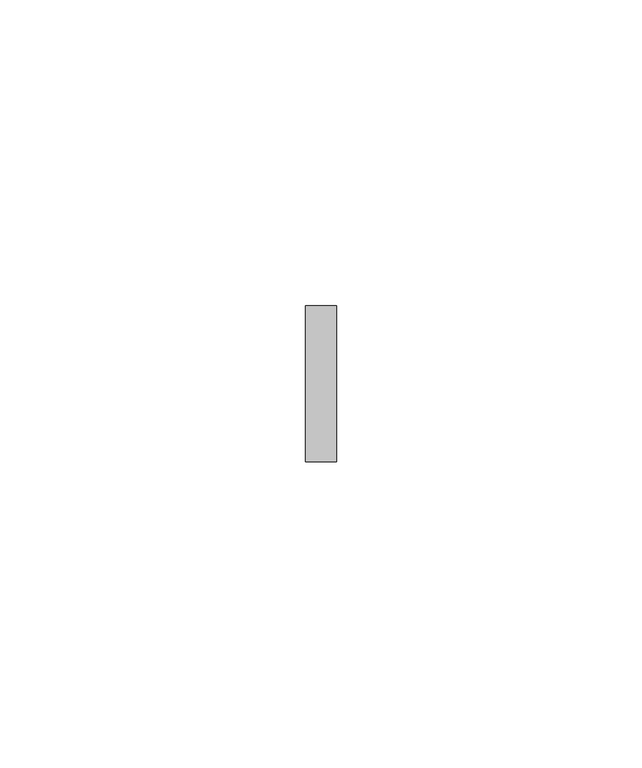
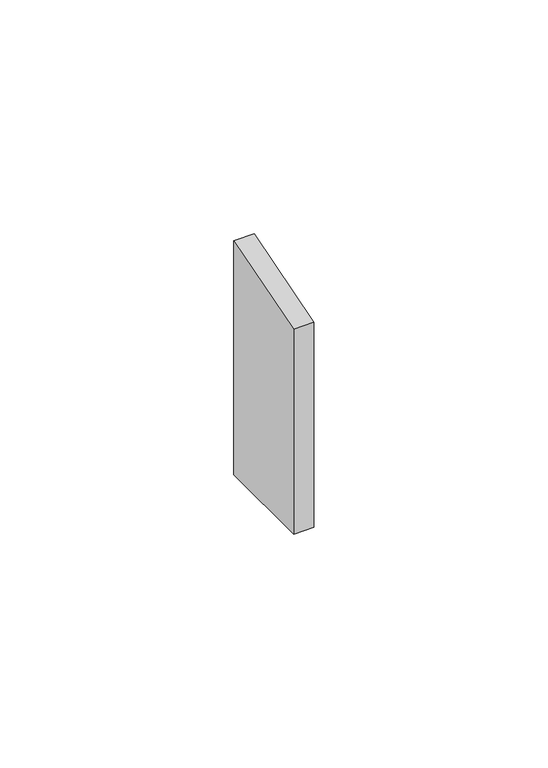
"""IFC4 building model written with IfcOpenShell, lengths in millimetres: proxy geometry, Odbojniki - OPK301 : Odbojniki - OPK301."""

from ifc_helpers import new_model, si_unit, frame, origin, place, context, project, spatial, polyline, outline, extrude, source, transform, mapped, element, save


def generic_models_3133368d(model_context):
    return source(origin(), model_context, "Body", "SweptSolid", [
        extrude(outline(polyline([(-34.25, 50.4880613), (-8.75, 58.1380613), (-8.75, -3.0), (-34.25, -3.0), (-34.25, 50.4880613)])), frame((-2.5, 0.0, 0.0), z_axis=(1.0, 0.0, 0.0), x_axis=(0.0, 1.0, 0.0)), (0.0, 0.0, 1.0), 5.0),
    ])


if __name__ == "__main__":
    model = new_model("IFC4")
    model_context = context("Model", 3, world=origin())
    ifc_project = project(units=[si_unit("LENGTHUNIT", "METRE", prefix="MILLI")], contexts=[model_context])
    site = spatial("IfcSite", under=ifc_project)
    building = spatial("IfcBuilding", under=site)
    placement = place(None, origin())
    generic_models_shape = generic_models_3133368d(model_context)
    element("IfcBuildingElementProxy", 1, Name="Odbojniki - OPK301 : Odbojniki - OPK301", ObjectType="Odbojniki - OPK301 : Odbojniki - OPK301", at=placement, inside=building, context=model_context, shape_type="MappedRepresentation", body=[
        mapped(generic_models_shape, transform((0.0, 0.0, 0.0), x_axis=(1.0, 0.0, 0.0), y_axis=(0.0, 1.0, 0.0), z_axis=(0.0, 0.0, 1.0))),
    ])
    save(model, "model.ifc")
